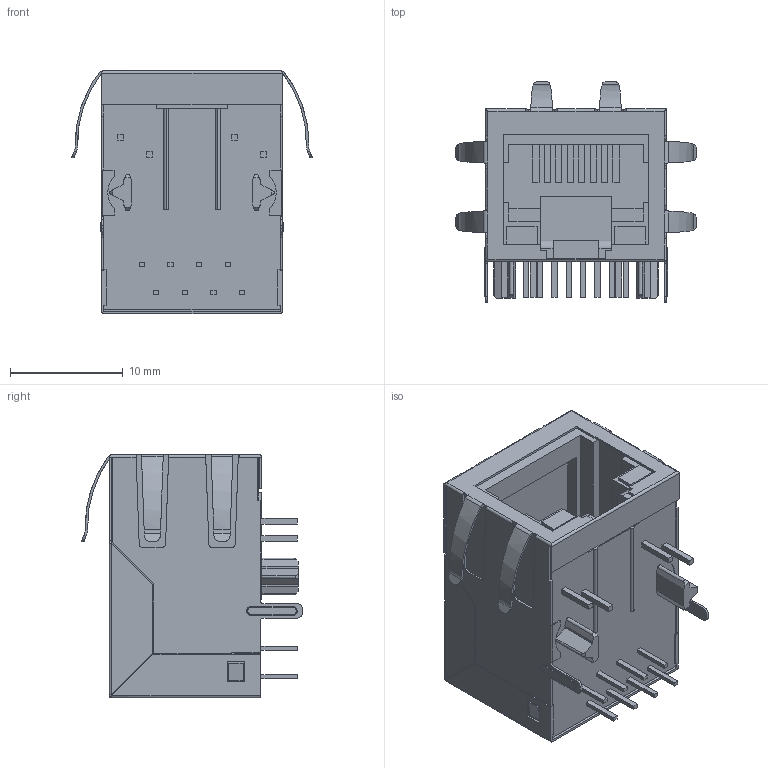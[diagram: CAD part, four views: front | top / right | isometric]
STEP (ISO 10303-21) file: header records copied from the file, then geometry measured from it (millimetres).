
FILE_DESCRIPTION (( 'STEP AP214' ), '1' );
FILE_NAME ('J00-0065NL.STEP', '2016-12-27T01:16:31', ( '' ), ( '' ), 'SwSTEP 2.0', 'SolidWorks 2012', '' );
FILE_SCHEMA (( 'AUTOMOTIVE_DESIGN' ));
Length unit declared in the file: millimetre
Products named in the file (1): J00-0065NL
Bounding box: 21.38 x 19.59 x 21.58 mm (x, y, z)
Volume: 1785.3 mm3; surface area: 3867.2 mm2
Topology: 1 solids, 1 shells, 544 faces, 1521 edges, 982 vertices
Faces by surface type: plane 404, cylinder 128, bspline 12
Entity records: 23392 total; most frequent: CARTESIAN_POINT 3911, ORIENTED_EDGE 3042, DIRECTION 2582, EDGE_CURVE 1521, VECTOR 1232, LINE 1232, VERTEX_POINT 982, AXIS2_PLACEMENT_3D 675
